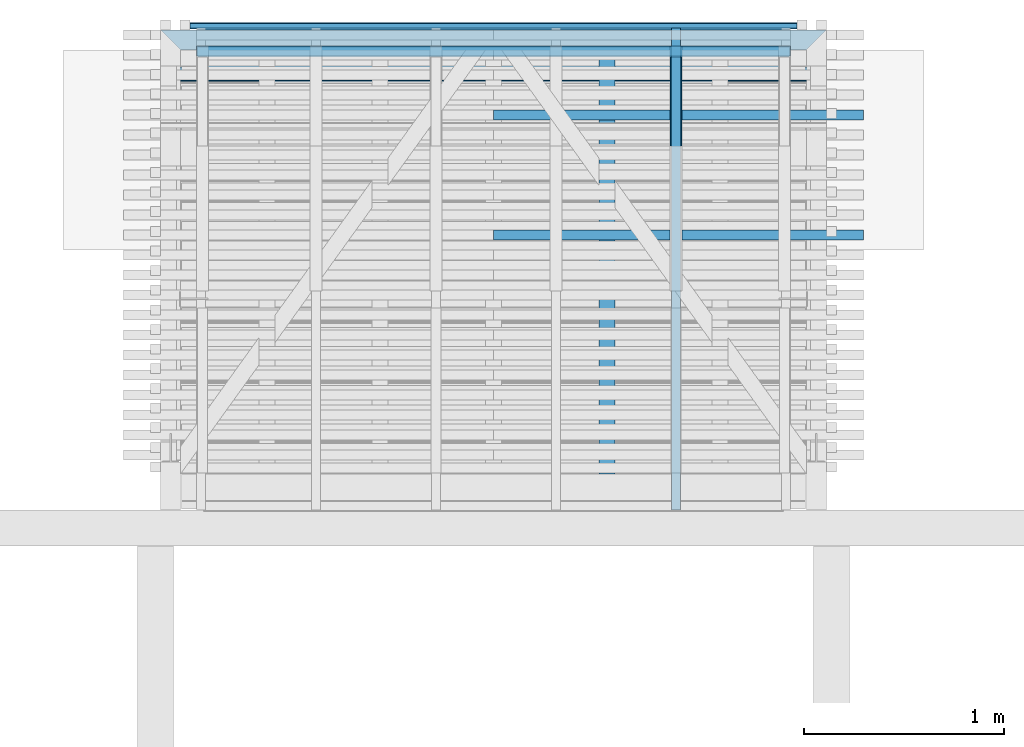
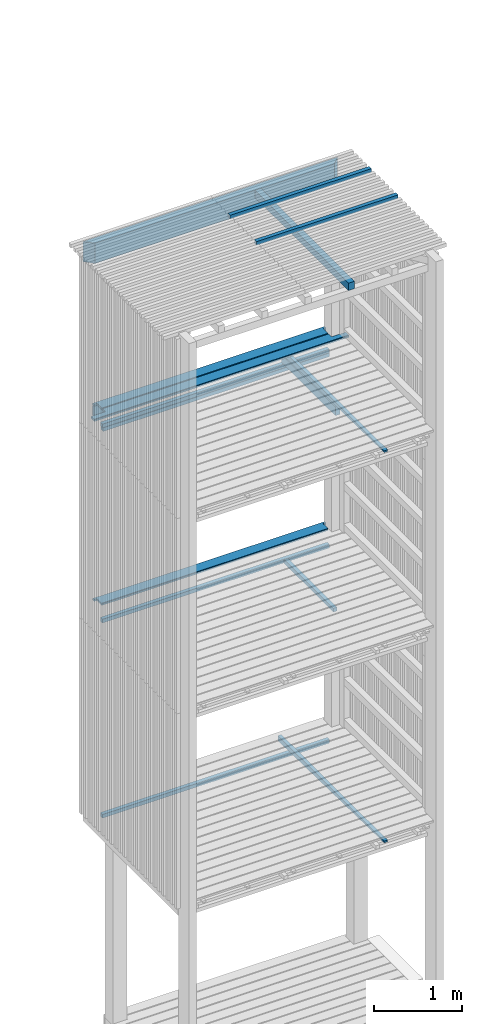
# One storey, part 152 of 182: 16 beams.
"""IFC2X3 building model written with IfcOpenShell, lengths in metres."""

from ifc_helpers import new_model, si_unit, frame, origin, place, context, project, spatial, faceted_brep, element, save


model = new_model("IFC2X3")

# Units and contexts
model_context = context("Model", 3, precision=1e-06, world=origin())
ifc_project = project(units=[si_unit("LENGTHUNIT", "METRE"), si_unit("PLANEANGLEUNIT", "RADIAN")], contexts=[model_context])

# Site, building, storey
site = spatial("IfcSite", under=ifc_project, CompositionType="ELEMENT")
building = spatial("IfcBuilding", under=site, CompositionType="ELEMENT")
storey = spatial("IfcBuildingStorey", under=building, Name="vs", CompositionType="ELEMENT", Elevation=-0.85)

# Beams
placement = place(None, origin())
beam_1_placement = place(placement, frame((33.23499999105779, 12.765077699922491, 5.217399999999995), z_axis=(0.0, 0.0, 1.0), x_axis=(1.0, 1e-15, 0.0)))
element("IfcBeam", 1, at=beam_1_placement, inside=storey, Name="Ligneul", context=model_context, shape_type="Brep", body=[
    faceted_brep([(2e-15, -0.024999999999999, -0.024999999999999), (2.970000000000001, -0.025000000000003, -0.024999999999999), (2.970000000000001, -0.025000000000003, 0.025), (2e-15, -0.024999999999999, 0.025), (2e-15, -0.024999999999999, 0.025), (2.970000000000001, -0.025000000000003, 0.025), (2.970000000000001, 0.024999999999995, 0.025), (2e-15, 0.025000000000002, 0.025), (2e-15, 0.025000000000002, -0.024999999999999), (2e-15, -0.024999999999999, -0.024999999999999), (2e-15, -0.024999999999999, 0.025), (2e-15, 0.025000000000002, 0.025), (2e-15, 0.025000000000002, -0.024999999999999), (2e-15, 0.025000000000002, 0.025), (2.970000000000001, 0.024999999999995, 0.025), (2.970000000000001, 0.025000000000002, -0.024999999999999), (2e-15, -0.024999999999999, -0.024999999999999), (2e-15, 0.025000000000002, -0.024999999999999), (2.970000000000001, 0.025000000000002, -0.024999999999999), (2.970000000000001, -0.025000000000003, -0.024999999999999), (2.970000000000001, 0.025000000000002, -0.024999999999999), (2.970000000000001, 0.024999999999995, 0.025), (2.970000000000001, -0.025000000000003, 0.025), (2.970000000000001, -0.025000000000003, -0.024999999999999)], [[[0, 1, 2, 3]], [[4, 5, 6, 7]], [[8, 9, 10, 11]], [[12, 13, 14, 15]], [[16, 17, 18, 19]], [[20, 21, 22, 23]]]),
])
beam_2_placement = place(placement, frame((36.236818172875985, 12.834577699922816, 8.13349999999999), z_axis=(0.0, 0.0, 1.0), x_axis=(-1.0, 0.0, 0.0)))
element("IfcBeam", 2, at=beam_2_placement, inside=storey, Name="Caillebotis", context=model_context, shape_type="Brep", body=[
    faceted_brep([(3.033636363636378, -0.072499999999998, -0.013500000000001), (3.033636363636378, -0.072499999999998, 0.0085), (2e-15, -0.072499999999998, 0.0085), (2e-15, -0.072499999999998, -0.013500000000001), (2.996818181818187, 0.072500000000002, 0.008499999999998), (2.996818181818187, 0.067500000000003, 0.013499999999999), (2.996818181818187, -0.040499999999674, 0.013499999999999), (2.996818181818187, -0.040499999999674, -0.013500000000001), (2.996818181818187, 0.072500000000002, -0.013500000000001), (0.036818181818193, -0.040499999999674, -0.013500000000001), (0.036818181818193, 0.072499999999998, -0.013500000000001), (2.996818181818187, 0.072500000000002, -0.013500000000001), (2.996818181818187, -0.040499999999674, -0.013500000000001), (3.033636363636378, -0.040499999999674, -0.013500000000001), (3.033636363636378, -0.072499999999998, -0.013500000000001), (2e-15, -0.072499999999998, -0.013500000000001), (2e-15, -0.040499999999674, -0.013500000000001), (3.033636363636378, -0.072499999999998, 0.0085), (3.033636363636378, -0.072499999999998, -0.013500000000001), (3.033636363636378, -0.040499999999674, -0.013500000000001), (3.033636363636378, -0.040499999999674, 0.013499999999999), (3.033636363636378, -0.067500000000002, 0.013499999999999), (3.033636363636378, -0.040499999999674, 0.013499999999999), (3.033636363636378, -0.040499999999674, -0.013500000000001), (2.996818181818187, -0.040499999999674, -0.013500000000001), (2.996818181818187, -0.040499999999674, 0.013499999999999), (2.996818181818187, 0.072500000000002, 0.008499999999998), (2.996818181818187, 0.072500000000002, -0.013500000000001), (0.036818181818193, 0.072499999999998, -0.013500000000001), (0.036818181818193, 0.072499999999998, 0.0085), (2.996818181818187, 0.067500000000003, 0.013499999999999), (2.996818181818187, 0.072500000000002, 0.008499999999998), (0.036818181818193, 0.072499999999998, 0.0085), (0.036818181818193, 0.067500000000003, 0.013499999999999), (0.036818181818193, 0.067500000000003, 0.013499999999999), (0.036818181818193, 0.072499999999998, 0.0085), (0.036818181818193, 0.072499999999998, -0.013500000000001), (0.036818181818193, -0.040499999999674, -0.013500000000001), (0.036818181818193, -0.040499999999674, 0.013499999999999), (0.036818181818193, -0.040499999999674, 0.013499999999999), (0.036818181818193, -0.040499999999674, -0.013500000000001), (2e-15, -0.040499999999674, -0.013500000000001), (2e-15, -0.040499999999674, 0.013499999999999), (3.033636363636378, -0.067500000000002, 0.013499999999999), (3.033636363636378, -0.040499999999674, 0.013499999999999), (2.996818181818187, -0.040499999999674, 0.013499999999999), (2.996818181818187, 0.067500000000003, 0.013499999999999), (0.036818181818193, 0.067500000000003, 0.013499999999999), (0.036818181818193, -0.040499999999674, 0.013499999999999), (2e-15, -0.040499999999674, 0.013499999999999), (2e-15, -0.067500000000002, 0.013499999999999), (2e-15, -0.072499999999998, 0.0085), (3.033636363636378, -0.072499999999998, 0.0085), (3.033636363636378, -0.067500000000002, 0.013499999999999), (2e-15, -0.067500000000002, 0.013499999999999), (2e-15, -0.072499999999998, -0.013500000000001), (2e-15, -0.072499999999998, 0.0085), (2e-15, -0.067500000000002, 0.013499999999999), (2e-15, -0.040499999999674, 0.013499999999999), (2e-15, -0.040499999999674, -0.013500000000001)], [[[0, 1, 2, 3]], [[4, 5, 6, 7, 8]], [[9, 10, 11, 12, 13, 14, 15, 16]], [[17, 18, 19, 20, 21]], [[22, 23, 24, 25]], [[26, 27, 28, 29]], [[30, 31, 32, 33]], [[34, 35, 36, 37, 38]], [[39, 40, 41, 42]], [[43, 44, 45, 46, 47, 48, 49, 50]], [[51, 52, 53, 54]], [[55, 56, 57, 58, 59]]]),
])
beam_3_placement = place(placement, frame((33.20318180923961, 12.893577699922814, 8.042499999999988), z_axis=(0.0, 1.0, 0.0), x_axis=(1.0, 0.0, 0.0)))
element("IfcBeam", 3, at=beam_3_placement, inside=storey, Name="Caillebotis", context=model_context, shape_type="Brep", body=[
    faceted_brep([(-3e-15, -0.072500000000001, -0.013500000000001), (-3e-15, 0.072499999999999, -0.013500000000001), (3.033636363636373, 0.072499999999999, -0.013500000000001), (3.033636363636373, -0.072500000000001, -0.013500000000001), (-3e-15, -0.072500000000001, 0.008500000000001), (-3e-15, -0.072500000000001, -0.013500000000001), (3.033636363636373, -0.072500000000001, -0.013500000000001), (3.033636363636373, -0.072500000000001, 0.008500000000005), (-3e-15, -0.067500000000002, 0.0135), (-3e-15, -0.072500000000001, 0.008500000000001), (3.033636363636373, -0.072500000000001, 0.008500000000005), (3.033636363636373, -0.067500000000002, 0.013500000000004), (-3e-15, -0.072500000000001, -0.013500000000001), (-3e-15, -0.072500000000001, 0.008500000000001), (-3e-15, -0.067500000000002, 0.0135), (-3e-15, 0.0675, 0.0135), (-3e-15, 0.072499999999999, 0.008500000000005), (-3e-15, 0.072499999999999, -0.013500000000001), (-3e-15, 0.0675, 0.0135), (-3e-15, -0.067500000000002, 0.0135), (3.033636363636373, -0.067500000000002, 0.013500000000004), (3.033636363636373, 0.0675, 0.013500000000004), (-3e-15, 0.072499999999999, 0.008500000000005), (-3e-15, 0.0675, 0.0135), (3.033636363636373, 0.0675, 0.013500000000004), (3.033636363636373, 0.072499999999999, 0.008500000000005), (3.033636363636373, 0.072499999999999, -0.013500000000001), (-3e-15, 0.072499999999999, -0.013500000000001), (-3e-15, 0.072499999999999, 0.008500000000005), (3.033636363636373, 0.072499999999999, 0.008500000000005), (3.033636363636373, -0.072500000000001, 0.008500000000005), (3.033636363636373, -0.072500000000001, -0.013500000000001), (3.033636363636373, 0.072499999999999, -0.013500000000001), (3.033636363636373, 0.072499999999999, 0.008500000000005), (3.033636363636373, 0.0675, 0.013500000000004), (3.033636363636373, -0.067500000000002, 0.013500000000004)], [[[0, 1, 2, 3]], [[4, 5, 6, 7]], [[8, 9, 10, 11]], [[12, 13, 14, 15, 16, 17]], [[18, 19, 20, 21]], [[22, 23, 24, 25]], [[26, 27, 28, 29]], [[30, 31, 32, 33, 34, 35]]]),
])
beam_4_placement = place(placement, frame((33.23499999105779, 12.765077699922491, 2.5174), z_axis=(0.0, 0.0, 1.0), x_axis=(1.0, 1e-15, 0.0)))
element("IfcBeam", 4, at=beam_4_placement, inside=storey, Name="Ligneul", context=model_context, shape_type="Brep", body=[
    faceted_brep([(2e-15, -0.024999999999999, 0.025), (2e-15, -0.024999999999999, -0.025), (2.970000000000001, -0.025000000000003, -0.025), (2.970000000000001, -0.025000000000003, 0.025), (2e-15, 0.025000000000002, 0.025), (2e-15, -0.024999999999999, 0.025), (2.970000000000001, -0.025000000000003, 0.025), (2.970000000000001, 0.025000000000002, 0.025), (2e-15, -0.024999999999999, 0.025), (2e-15, 0.025000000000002, 0.025), (2e-15, 0.025000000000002, -0.025), (2e-15, -0.024999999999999, -0.025), (2e-15, 0.025000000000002, -0.025), (2e-15, 0.025000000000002, 0.025), (2.970000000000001, 0.025000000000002, 0.025), (2.970000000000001, 0.025000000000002, -0.025), (2.970000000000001, -0.025000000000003, -0.025), (2e-15, -0.024999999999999, -0.025), (2e-15, 0.025000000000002, -0.025), (2.970000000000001, 0.025000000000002, -0.025), (2.970000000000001, -0.025000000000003, 0.025), (2.970000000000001, -0.025000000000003, -0.025), (2.970000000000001, 0.025000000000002, -0.025), (2.970000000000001, 0.025000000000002, 0.025)], [[[0, 1, 2, 3]], [[4, 5, 6, 7]], [[8, 9, 10, 11]], [[12, 13, 14, 15]], [[16, 17, 18, 19]], [[20, 21, 22, 23]]]),
])
beam_5_placement = place(placement, frame((36.384999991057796, 12.684577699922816, 8.13349999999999), z_axis=(0.0, 0.0, 1.0), x_axis=(-1.0, 0.0, 0.0)))
element("IfcBeam", 5, at=beam_5_placement, inside=storey, Name="Caillebotis", context=model_context, shape_type="Brep", body=[
    faceted_brep([(3.144999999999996, -0.000499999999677, 0.013499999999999), (3.144999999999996, -0.000499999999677, -0.013500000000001), (3.329999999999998, -0.000499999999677, -0.013500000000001), (3.329999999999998, -0.000499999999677, 0.013499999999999), (3.329999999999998, 0.072500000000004, -0.013500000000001), (3.329999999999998, 0.072500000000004, 0.0085), (3.329999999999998, 0.067500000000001, 0.013499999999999), (3.329999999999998, -0.000499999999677, 0.013499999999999), (3.329999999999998, -0.000499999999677, -0.013500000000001), (3.144999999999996, -0.072499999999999, 0.0085), (3.144999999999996, -0.072499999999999, -0.013500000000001), (3.144999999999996, -0.000499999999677, -0.013500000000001), (3.144999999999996, -0.000499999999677, 0.013499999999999), (3.144999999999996, -0.067499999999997, 0.013499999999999), (3.144999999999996, -0.072499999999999, -0.013500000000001), (3.144999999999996, -0.072499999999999, 0.0085), (0.185000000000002, -0.072499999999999, 0.008500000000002), (0.185000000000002, -0.072499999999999, -0.013500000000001), (3.144999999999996, -0.072499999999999, 0.0085), (3.144999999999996, -0.067499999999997, 0.013499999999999), (0.185000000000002, -0.0675, 0.013499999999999), (0.185000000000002, -0.072499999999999, 0.008500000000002), (0.185000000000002, -0.072499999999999, -0.013500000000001), (0.185000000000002, -0.072499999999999, 0.008500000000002), (0.185000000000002, -0.0675, 0.013499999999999), (0.185000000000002, -0.000499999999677, 0.013499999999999), (0.185000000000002, -0.000499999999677, -0.013500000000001), (0.0, -0.000499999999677, 0.013499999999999), (0.0, 0.067500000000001, 0.013499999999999), (0.0, 0.0725, 0.0085), (0.0, 0.0725, -0.013500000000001), (0.0, -0.000499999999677, -0.013500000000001), (3.329999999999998, 0.072500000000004, 0.0085), (3.329999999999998, 0.072500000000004, -0.013500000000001), (0.0, 0.0725, -0.013500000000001), (0.0, 0.0725, 0.0085), (3.329999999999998, 0.067500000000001, 0.013499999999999), (3.329999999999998, 0.072500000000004, 0.0085), (0.0, 0.0725, 0.0085), (0.0, 0.067500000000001, 0.013499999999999), (3.144999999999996, -0.067499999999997, 0.013499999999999), (3.144999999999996, -0.000499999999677, 0.013499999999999), (3.329999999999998, -0.000499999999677, 0.013499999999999), (3.329999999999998, 0.067500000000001, 0.013499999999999), (0.0, 0.067500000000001, 0.013499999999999), (0.0, -0.000499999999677, 0.013499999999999), (0.185000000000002, -0.000499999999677, 0.013499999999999), (0.185000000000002, -0.0675, 0.013499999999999), (0.185000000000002, -0.000499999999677, -0.013500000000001), (0.185000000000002, -0.000499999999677, 0.013499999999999), (0.0, -0.000499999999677, 0.013499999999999), (0.0, -0.000499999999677, -0.013500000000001), (0.0, -0.000499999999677, -0.013500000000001), (0.0, 0.0725, -0.013500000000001), (3.329999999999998, 0.072500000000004, -0.013500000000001), (3.329999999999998, -0.000499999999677, -0.013500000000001), (3.144999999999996, -0.000499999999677, -0.013500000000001), (3.144999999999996, -0.072499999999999, -0.013500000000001), (0.185000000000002, -0.072499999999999, -0.013500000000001), (0.185000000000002, -0.000499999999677, -0.013500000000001)], [[[0, 1, 2, 3]], [[4, 5, 6, 7, 8]], [[9, 10, 11, 12, 13]], [[14, 15, 16, 17]], [[18, 19, 20, 21]], [[22, 23, 24, 25, 26]], [[27, 28, 29, 30, 31]], [[32, 33, 34, 35]], [[36, 37, 38, 39]], [[40, 41, 42, 43, 44, 45, 46, 47]], [[48, 49, 50, 51]], [[52, 53, 54, 55, 56, 57, 58, 59]]]),
])
beam_6_placement = place(placement, frame((36.236818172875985, 12.834577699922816, 5.433499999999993), z_axis=(0.0, 0.0, 1.0), x_axis=(-1.0, 0.0, 0.0)))
element("IfcBeam", 6, at=beam_6_placement, inside=storey, Name="Caillebotis", context=model_context, shape_type="Brep", body=[
    faceted_brep([(3.033636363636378, -0.072499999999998, -0.0135), (3.033636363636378, -0.072499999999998, 0.008500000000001), (2e-15, -0.072499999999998, 0.008500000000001), (2e-15, -0.072500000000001, -0.0135), (2.996818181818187, 0.072500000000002, 0.0085), (2.996818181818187, 0.067500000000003, 0.0135), (2.996818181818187, -0.040499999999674, 0.0135), (2.996818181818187, -0.040499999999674, -0.0135), (2.996818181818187, 0.072500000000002, -0.013500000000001), (0.036818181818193, -0.040499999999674, -0.0135), (0.036818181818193, 0.072499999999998, -0.0135), (2.996818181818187, 0.072500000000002, -0.013500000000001), (2.996818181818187, -0.040499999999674, -0.0135), (3.033636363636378, -0.040499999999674, -0.013500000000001), (3.033636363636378, -0.072499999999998, -0.0135), (2e-15, -0.072500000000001, -0.0135), (2e-15, -0.040499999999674, -0.0135), (3.033636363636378, -0.072499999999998, 0.008500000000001), (3.033636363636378, -0.072499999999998, -0.0135), (3.033636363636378, -0.040499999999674, -0.013500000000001), (3.033636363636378, -0.040499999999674, 0.0135), (3.033636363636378, -0.067500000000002, 0.0135), (3.033636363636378, -0.040499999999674, 0.0135), (3.033636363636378, -0.040499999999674, -0.013500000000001), (2.996818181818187, -0.040499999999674, -0.0135), (2.996818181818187, -0.040499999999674, 0.0135), (2.996818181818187, 0.072500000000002, 0.0085), (2.996818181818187, 0.072500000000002, -0.013500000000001), (0.036818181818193, 0.072499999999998, -0.0135), (0.036818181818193, 0.072499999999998, 0.008500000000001), (2.996818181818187, 0.067500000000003, 0.0135), (2.996818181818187, 0.072500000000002, 0.0085), (0.036818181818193, 0.072499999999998, 0.008500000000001), (0.036818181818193, 0.067500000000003, 0.0135), (0.036818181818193, 0.067500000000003, 0.0135), (0.036818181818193, 0.072499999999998, 0.008500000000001), (0.036818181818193, 0.072499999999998, -0.0135), (0.036818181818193, -0.040499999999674, -0.0135), (0.036818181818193, -0.040499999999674, 0.0135), (0.036818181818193, -0.040499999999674, 0.0135), (0.036818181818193, -0.040499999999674, -0.0135), (2e-15, -0.040499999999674, -0.0135), (2e-15, -0.040499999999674, 0.0135), (3.033636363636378, -0.067500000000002, 0.0135), (3.033636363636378, -0.040499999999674, 0.0135), (2.996818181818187, -0.040499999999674, 0.0135), (2.996818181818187, 0.067500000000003, 0.0135), (0.036818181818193, 0.067500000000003, 0.0135), (0.036818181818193, -0.040499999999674, 0.0135), (2e-15, -0.040499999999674, 0.0135), (2e-15, -0.067500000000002, 0.0135), (2e-15, -0.072499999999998, 0.008500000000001), (3.033636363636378, -0.072499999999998, 0.008500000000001), (3.033636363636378, -0.067500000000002, 0.0135), (2e-15, -0.067500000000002, 0.0135), (2e-15, -0.072500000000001, -0.0135), (2e-15, -0.072499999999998, 0.008500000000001), (2e-15, -0.067500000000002, 0.0135), (2e-15, -0.040499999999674, 0.0135), (2e-15, -0.040499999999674, -0.0135)], [[[0, 1, 2, 3]], [[4, 5, 6, 7, 8]], [[9, 10, 11, 12, 13, 14, 15, 16]], [[17, 18, 19, 20, 21]], [[22, 23, 24, 25]], [[26, 27, 28, 29]], [[30, 31, 32, 33]], [[34, 35, 36, 37, 38]], [[39, 40, 41, 42]], [[43, 44, 45, 46, 47, 48, 49, 50]], [[51, 52, 53, 54]], [[55, 56, 57, 58, 59]]]),
])
beam_7_placement = place(placement, frame((33.0549999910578, 12.82007769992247, 10.314999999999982), z_axis=(0.0, 0.0, 1.0), x_axis=(1.0, 7e-15, 0.0)))
element("IfcBeam", 7, at=beam_7_placement, inside=storey, Name="Sommier", context=model_context, shape_type="Brep", body=[
    faceted_brep([(3.33, 0.049999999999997, -0.140000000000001), (3.230000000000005, -0.049999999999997, -0.140000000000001), (0.099999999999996, -0.049999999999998, -0.140000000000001), (2e-15, 0.049999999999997, -0.140000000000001), (0.099999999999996, -0.049999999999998, -0.140000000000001), (3.230000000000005, -0.049999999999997, -0.140000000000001), (3.230000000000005, -0.049999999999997, 0.140000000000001), (0.099999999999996, -0.049999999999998, 0.140000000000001), (3.230000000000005, -0.049999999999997, -0.140000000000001), (3.33, 0.049999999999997, -0.140000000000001), (3.33, 0.049999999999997, 0.140000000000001), (3.230000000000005, -0.049999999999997, 0.140000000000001), (3.33, 0.049999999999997, 0.140000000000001), (3.33, 0.049999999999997, -0.140000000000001), (2e-15, 0.049999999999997, -0.140000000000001), (2e-15, 0.049999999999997, 0.140000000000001), (0.099999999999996, -0.049999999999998, 0.140000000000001), (3.230000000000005, -0.049999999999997, 0.140000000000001), (3.33, 0.049999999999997, 0.140000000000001), (2e-15, 0.049999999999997, 0.140000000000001), (0.099999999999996, -0.049999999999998, -0.140000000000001), (0.099999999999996, -0.049999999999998, 0.140000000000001), (2e-15, 0.049999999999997, 0.140000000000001), (2e-15, 0.049999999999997, -0.140000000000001)], [[[0, 1, 2, 3]], [[4, 5, 6, 7]], [[8, 9, 10, 11]], [[12, 13, 14, 15]], [[16, 17, 18, 19]], [[20, 21, 22, 23]]]),
])
beam_8_placement = place(placement, frame((36.199999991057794, 12.760077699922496, 7.86739999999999), z_axis=(0.0, 0.0, 1.0), x_axis=(-1.0, 0.0, 0.0)))
element("IfcBeam", 8, at=beam_8_placement, inside=storey, Name="Bardage", context=model_context, shape_type="Brep", body=[
    faceted_brep([(2.96000000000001, -0.024999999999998, 0.025000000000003), (2.96000000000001, -0.024999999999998, -0.024999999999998), (2.96000000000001, 0.025000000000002, -0.024999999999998), (2.96000000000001, 0.025000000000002, 0.025000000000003), (2e-15, 0.024999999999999, 0.025000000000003), (2e-15, 0.024999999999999, -0.024999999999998), (2e-15, -0.024999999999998, -0.024999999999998), (2e-15, -0.024999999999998, 0.025000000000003), (2e-15, -0.024999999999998, -0.024999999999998), (2e-15, 0.024999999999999, -0.024999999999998), (2.96000000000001, 0.025000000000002, -0.024999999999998), (2.96000000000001, -0.024999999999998, -0.024999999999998), (2e-15, 0.024999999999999, -0.024999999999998), (2e-15, 0.024999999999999, 0.025000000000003), (2.96000000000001, 0.025000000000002, 0.025000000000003), (2.96000000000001, 0.025000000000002, -0.024999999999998), (2e-15, 0.024999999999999, 0.025000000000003), (2e-15, -0.024999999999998, 0.025000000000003), (2.96000000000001, -0.024999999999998, 0.025000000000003), (2.96000000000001, 0.025000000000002, 0.025000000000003), (2e-15, -0.024999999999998, 0.025000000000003), (2e-15, -0.024999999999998, -0.024999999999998), (2.96000000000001, -0.024999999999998, -0.024999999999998), (2.96000000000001, -0.024999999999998, 0.025000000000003)], [[[0, 1, 2, 3]], [[4, 5, 6, 7]], [[8, 9, 10, 11]], [[12, 13, 14, 15]], [[16, 17, 18, 19]], [[20, 21, 22, 23]]]),
])
beam_9_placement = place(placement, frame((33.23499999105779, 12.765077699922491, 7.917399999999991), z_axis=(0.0, 0.0, 1.0), x_axis=(1.0, 1e-15, 0.0)))
element("IfcBeam", 9, at=beam_9_placement, inside=storey, Name="Ligneul", context=model_context, shape_type="Brep", body=[
    faceted_brep([(2e-15, 0.025000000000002, -0.025000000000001), (2.970000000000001, 0.025000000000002, -0.025000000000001), (2.970000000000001, -0.025000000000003, -0.025000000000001), (2e-15, -0.024999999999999, -0.025000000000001), (2e-15, -0.024999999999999, 0.024999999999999), (2e-15, 0.025000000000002, 0.024999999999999), (2e-15, 0.025000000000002, -0.025000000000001), (2e-15, -0.024999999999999, -0.025000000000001), (2e-15, -0.024999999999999, 0.024999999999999), (2e-15, -0.024999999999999, -0.025000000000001), (2.970000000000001, -0.025000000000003, -0.025000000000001), (2.970000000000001, -0.025000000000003, 0.024999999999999), (2.970000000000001, -0.025000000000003, 0.024999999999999), (2.970000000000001, -0.025000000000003, -0.025000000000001), (2.970000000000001, 0.025000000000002, -0.025000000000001), (2.970000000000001, 0.025000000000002, 0.024999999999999), (2e-15, 0.025000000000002, 0.024999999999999), (2e-15, -0.024999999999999, 0.024999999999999), (2.970000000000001, -0.025000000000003, 0.024999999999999), (2.970000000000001, 0.025000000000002, 0.024999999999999), (2.970000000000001, 0.025000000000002, -0.025000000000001), (2e-15, 0.025000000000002, -0.025000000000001), (2e-15, 0.025000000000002, 0.024999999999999), (2.970000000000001, 0.025000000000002, 0.024999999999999)], [[[0, 1, 2, 3]], [[4, 5, 6, 7]], [[8, 9, 10, 11]], [[12, 13, 14, 15]], [[16, 17, 18, 19]], [[20, 21, 22, 23]]]),
])
beam_10_placement = place(placement, frame((35.63299999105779, 10.470077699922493, 8.084400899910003), z_axis=(0.0, 0.0, 1.0), x_axis=(6e-15, 1.0, 0.0)))
element("IfcBeam", 10, at=beam_10_placement, inside=storey, Name="Calage", context=model_context, shape_type="Brep", body=[
    faceted_brep([(2.410000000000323, -0.022499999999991, -0.035599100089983), (0.0, -0.022500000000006, 0.012600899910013), (0.0, 0.022499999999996, 0.012600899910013), (2.410000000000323, 0.022500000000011, -0.035599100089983), (0.0, 0.022499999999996, 0.035599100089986), (0.0, 0.022499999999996, 0.012600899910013), (0.0, -0.022500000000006, 0.012600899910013), (0.0, -0.022500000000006, 0.035599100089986), (2.410000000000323, 0.022500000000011, -0.035599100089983), (0.0, 0.022499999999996, 0.012600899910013), (0.0, 0.022499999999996, 0.035599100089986), (2.410000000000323, 0.022500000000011, 0.035599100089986), (2.410000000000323, -0.022499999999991, 0.035599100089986), (0.0, -0.022500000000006, 0.035599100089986), (0.0, -0.022500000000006, 0.012600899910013), (2.410000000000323, -0.022499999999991, -0.035599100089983), (2.410000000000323, 0.022500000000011, 0.035599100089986), (0.0, 0.022499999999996, 0.035599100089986), (0.0, -0.022500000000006, 0.035599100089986), (2.410000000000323, -0.022499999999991, 0.035599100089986), (2.410000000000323, 0.022500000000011, -0.035599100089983), (2.410000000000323, 0.022500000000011, 0.035599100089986), (2.410000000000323, -0.022499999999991, 0.035599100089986), (2.410000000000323, -0.022499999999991, -0.035599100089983)], [[[0, 1, 2, 3]], [[4, 5, 6, 7]], [[8, 9, 10, 11]], [[12, 13, 14, 15]], [[16, 17, 18, 19]], [[20, 21, 22, 23]]]),
])
beam_11_placement = place(placement, frame((35.6329999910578, 12.735077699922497, 5.217399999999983), z_axis=(0.0, 0.0, 1.0), x_axis=(0.0, -1.0, 0.0)))
element("IfcBeam", 11, at=beam_11_placement, inside=storey, Name="Calage", context=model_context, shape_type="Brep", body=[
    faceted_brep([(0.0, -0.025000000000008, -0.025), (0.0, -0.025000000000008, 0.024999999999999), (0.0, 0.024999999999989, 0.024999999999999), (0.0, 0.024999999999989, -0.025), (1.115000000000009, 0.024999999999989, 0.024999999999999), (1.115000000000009, -0.025000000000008, 0.024999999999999), (1.115000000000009, -0.025000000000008, -0.025), (1.115000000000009, 0.024999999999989, -0.025), (0.0, 0.024999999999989, 0.024999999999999), (0.0, -0.025000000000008, 0.024999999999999), (1.115000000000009, -0.025000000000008, 0.024999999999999), (1.115000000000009, 0.024999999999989, 0.024999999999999), (1.115000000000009, -0.025000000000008, 0.024999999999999), (0.0, -0.025000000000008, 0.024999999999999), (0.0, -0.025000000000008, -0.025), (1.115000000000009, -0.025000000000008, -0.025), (1.115000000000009, -0.025000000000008, -0.025), (0.0, -0.025000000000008, -0.025), (0.0, 0.024999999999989, -0.025), (1.115000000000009, 0.024999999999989, -0.025), (1.115000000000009, 0.024999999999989, -0.025), (0.0, 0.024999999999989, -0.025), (0.0, 0.024999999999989, 0.024999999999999), (1.115000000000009, 0.024999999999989, 0.024999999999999)], [[[0, 1, 2, 3]], [[4, 5, 6, 7]], [[8, 9, 10, 11]], [[12, 13, 14, 15]], [[16, 17, 18, 19]], [[20, 21, 22, 23]]]),
])
beam_12_placement = place(placement, frame((36.569999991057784, 11.845077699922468, 10.47999999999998), z_axis=(0.0, 0.0, 1.0), x_axis=(-1.0, 0.0, 0.0)))
element("IfcBeam", 12, at=beam_12_placement, inside=storey, Name="Bardage", context=model_context, shape_type="Brep", body=[
    faceted_brep([(-3e-15, 0.025000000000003, 0.025000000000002), (-3e-15, -0.024999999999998, 0.025000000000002), (1.849999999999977, -0.024999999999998, 0.025000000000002), (1.849999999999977, 0.025000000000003, 0.025000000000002), (1.849999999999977, -0.024999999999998, 0.025000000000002), (-3e-15, -0.024999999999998, 0.025000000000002), (-3e-15, -0.024999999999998, -0.024999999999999), (1.849999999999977, -0.024999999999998, -0.024999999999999), (-3e-15, -0.024999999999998, 0.025000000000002), (-3e-15, 0.025000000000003, 0.025000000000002), (-3e-15, 0.025000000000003, -0.024999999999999), (-3e-15, -0.024999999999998, -0.024999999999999), (-3e-15, 0.025000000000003, -0.024999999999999), (-3e-15, 0.025000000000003, 0.025000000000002), (1.849999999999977, 0.025000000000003, 0.025000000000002), (1.849999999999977, 0.025000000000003, -0.024999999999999), (1.849999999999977, -0.024999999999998, -0.024999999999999), (-3e-15, -0.024999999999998, -0.024999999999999), (-3e-15, 0.025000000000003, -0.024999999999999), (1.849999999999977, 0.025000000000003, -0.024999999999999), (1.849999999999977, -0.024999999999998, 0.025000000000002), (1.849999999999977, -0.024999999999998, -0.024999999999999), (1.849999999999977, 0.025000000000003, -0.024999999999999), (1.849999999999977, 0.025000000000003, 0.025000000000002)], [[[0, 1, 2, 3]], [[4, 5, 6, 7]], [[8, 9, 10, 11]], [[12, 13, 14, 15]], [[16, 17, 18, 19]], [[20, 21, 22, 23]]]),
])
beam_13_placement = place(placement, frame((36.569999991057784, 12.445077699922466, 10.47999999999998), z_axis=(0.0, 0.0, 1.0), x_axis=(-1.0, 2e-15, 0.0)))
element("IfcBeam", 13, at=beam_13_placement, inside=storey, Name="Bardage", context=model_context, shape_type="Brep", body=[
    faceted_brep([(-3e-15, 0.024999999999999, 0.025000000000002), (-3e-15, -0.025000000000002, 0.025000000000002), (1.849999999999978, -0.024999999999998, 0.025000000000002), (1.849999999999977, 0.025000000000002, 0.025000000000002), (1.849999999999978, -0.024999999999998, 0.025000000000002), (-3e-15, -0.025000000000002, 0.025000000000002), (-3e-15, -0.025000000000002, -0.024999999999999), (1.849999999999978, -0.024999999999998, -0.024999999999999), (-3e-15, -0.025000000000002, 0.025000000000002), (-3e-15, 0.024999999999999, 0.025000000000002), (-3e-15, 0.024999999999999, -0.024999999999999), (-3e-15, -0.025000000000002, -0.024999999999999), (-3e-15, 0.024999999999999, -0.024999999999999), (-3e-15, 0.024999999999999, 0.025000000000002), (1.849999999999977, 0.025000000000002, 0.025000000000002), (1.849999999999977, 0.025000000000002, -0.024999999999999), (1.849999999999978, -0.024999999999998, -0.024999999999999), (-3e-15, -0.025000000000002, -0.024999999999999), (-3e-15, 0.024999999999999, -0.024999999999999), (1.849999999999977, 0.025000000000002, -0.024999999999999), (1.849999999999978, -0.024999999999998, 0.025000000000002), (1.849999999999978, -0.024999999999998, -0.024999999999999), (1.849999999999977, 0.025000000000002, -0.024999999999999), (1.849999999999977, 0.025000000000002, 0.025000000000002)], [[[0, 1, 2, 3]], [[4, 5, 6, 7]], [[8, 9, 10, 11]], [[12, 13, 14, 15]], [[16, 17, 18, 19]], [[20, 21, 22, 23]]]),
])
beam_14_placement = place(placement, frame((35.63299999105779, 11.565077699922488, 8.00424999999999), z_axis=(0.0, 0.0, 1.0), x_axis=(1.2e-14, 1.0, 0.0)))
element("IfcBeam", 14, at=beam_14_placement, inside=storey, Name="Solive", context=model_context, shape_type="Brep", body=[
    faceted_brep([(0.0, -0.029999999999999, -0.061849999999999), (1.225000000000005, -0.029999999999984, -0.061849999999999), (1.225000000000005, -0.029999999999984, 0.037349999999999), (0.0, -0.029999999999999, 0.061849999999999), (-1e-15, 0.030000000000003, -0.061849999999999), (1.225000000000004, 0.030000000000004, -0.061849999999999), (1.225000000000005, -0.029999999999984, -0.061849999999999), (0.0, -0.029999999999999, -0.061849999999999), (-1e-15, 0.030000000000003, 0.061850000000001), (-1e-15, 0.030000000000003, -0.061849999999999), (0.0, -0.029999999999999, -0.061849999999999), (0.0, -0.029999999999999, 0.061849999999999), (1.225000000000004, 0.030000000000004, -0.061849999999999), (-1e-15, 0.030000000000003, -0.061849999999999), (-1e-15, 0.030000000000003, 0.061850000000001), (1.225000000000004, 0.030000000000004, 0.037349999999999), (1.225000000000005, -0.029999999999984, 0.037349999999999), (1.225000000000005, -0.029999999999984, -0.061849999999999), (1.225000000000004, 0.030000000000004, -0.061849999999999), (1.225000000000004, 0.030000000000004, 0.037349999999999), (0.0, -0.029999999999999, 0.061849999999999), (1.225000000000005, -0.029999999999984, 0.037349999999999), (1.225000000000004, 0.030000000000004, 0.037349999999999), (-1e-15, 0.030000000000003, 0.061850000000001)], [[[0, 1, 2, 3]], [[4, 5, 6, 7]], [[8, 9, 10, 11]], [[12, 13, 14, 15]], [[16, 17, 18, 19]], [[20, 21, 22, 23]]]),
])
beam_15_placement = place(placement, frame((35.63299999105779, 10.470077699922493, 2.684400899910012), z_axis=(0.0, 0.0, 1.0), x_axis=(0.0, 1.0, 0.0)))
element("IfcBeam", 15, at=beam_15_placement, inside=storey, Name="Calage", context=model_context, shape_type="Brep", body=[
    faceted_brep([(2.410000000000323, -0.022500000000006, -0.035599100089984), (0.0, -0.022500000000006, 0.012600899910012), (0.0, 0.022499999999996, 0.012600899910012), (2.410000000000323, 0.022499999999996, -0.035599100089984), (0.0, 0.022499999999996, 0.035599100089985), (0.0, 0.022499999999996, 0.012600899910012), (0.0, -0.022500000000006, 0.012600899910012), (0.0, -0.022500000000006, 0.035599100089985), (2.410000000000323, 0.022499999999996, -0.035599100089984), (0.0, 0.022499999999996, 0.012600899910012), (0.0, 0.022499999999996, 0.035599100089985), (2.410000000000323, 0.022499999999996, 0.035599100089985), (2.410000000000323, -0.022500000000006, 0.035599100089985), (0.0, -0.022500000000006, 0.035599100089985), (0.0, -0.022500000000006, 0.012600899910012), (2.410000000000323, -0.022500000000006, -0.035599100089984), (2.410000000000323, 0.022499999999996, 0.035599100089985), (0.0, 0.022499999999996, 0.035599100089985), (0.0, -0.022500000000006, 0.035599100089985), (2.410000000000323, -0.022500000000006, 0.035599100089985), (2.410000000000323, 0.022499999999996, -0.035599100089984), (2.410000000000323, 0.022499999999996, 0.035599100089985), (2.410000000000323, -0.022500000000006, 0.035599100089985), (2.410000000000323, -0.022500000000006, -0.035599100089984)], [[[0, 1, 2, 3]], [[4, 5, 6, 7]], [[8, 9, 10, 11]], [[12, 13, 14, 15]], [[16, 17, 18, 19]], [[20, 21, 22, 23]]]),
])
beam_16_placement = place(placement, frame((35.28666665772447, 10.650077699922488, 10.404999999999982), z_axis=(0.0, 0.0, 1.0), x_axis=(0.0, 1.0, 0.0)))
element("IfcBeam", 16, at=beam_16_placement, inside=storey, Name="Support bardage", context=model_context, shape_type="Brep", body=[
    faceted_brep([(2.120000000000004, -0.039999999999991, 0.050000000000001), (2.120000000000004, 0.040000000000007, 0.050000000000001), (3e-15, 0.040000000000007, 0.050000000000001), (3e-15, -0.039999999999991, 0.050000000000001), (3e-15, 0.040000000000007, 0.050000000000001), (2.120000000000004, 0.040000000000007, 0.050000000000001), (2.120000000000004, 0.040000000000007, -0.050000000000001), (3e-15, 0.040000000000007, -0.050000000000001), (2.120000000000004, 0.040000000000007, 0.050000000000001), (2.120000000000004, -0.039999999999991, 0.050000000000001), (2.120000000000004, -0.039999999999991, -0.050000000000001), (2.120000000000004, 0.040000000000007, -0.050000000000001), (2.120000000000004, -0.039999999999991, -0.050000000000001), (2.120000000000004, -0.039999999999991, 0.050000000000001), (3e-15, -0.039999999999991, 0.050000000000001), (3e-15, -0.039999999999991, -0.050000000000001), (3e-15, 0.040000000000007, -0.050000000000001), (2.120000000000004, 0.040000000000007, -0.050000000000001), (2.120000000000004, -0.039999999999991, -0.050000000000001), (3e-15, -0.039999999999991, -0.050000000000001), (3e-15, 0.040000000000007, 0.050000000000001), (3e-15, 0.040000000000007, -0.050000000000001), (3e-15, -0.039999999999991, -0.050000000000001), (3e-15, -0.039999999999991, 0.050000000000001)], [[[0, 1, 2, 3]], [[4, 5, 6, 7]], [[8, 9, 10, 11]], [[12, 13, 14, 15]], [[16, 17, 18, 19]], [[20, 21, 22, 23]]]),
])

save(model, "model.ifc")
